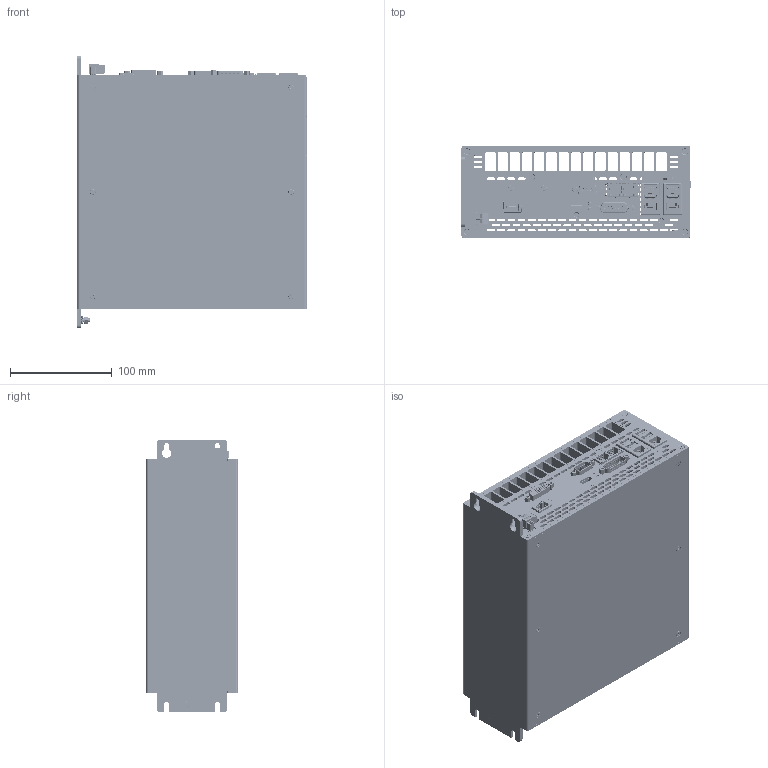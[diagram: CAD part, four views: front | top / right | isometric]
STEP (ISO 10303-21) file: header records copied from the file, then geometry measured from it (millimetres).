
FILE_DESCRIPTION (( 'STEP AP214' ), '1' );
FILE_NAME ('C6P34-BM_D0_RVL_RS232.STEP', '2019-09-20T13:58:06', ( '' ), ( '' ), 'SwSTEP 2.0', 'SolidWorks 2018', '' );
FILE_SCHEMA (( 'AUTOMOTIVE_DESIGN' ));
Length unit declared in the file: millimetre
Products named in the file (49): 62920011; 23330039; 7397_212_Depopolata; 62920001; foot2579_700000; 7397_279; 21410060; 52536136; 66811014; 62990009; 7397_212; 21505014; 66820000; 21509026; 21509048; 21502089; 52500002; 20100011; C6P34-BM_D0_RVL_RS232; 56636680; 7359_051; 21405029; 57136005; 21410056; 54336008_Default<A macchina>; 62920005; 53936027; 21512011; 52912002; 64312003; 66320015; 14300036; 54336011; 7397_276; 21614000; 21402062; 21409042; 21410052; 14300030; piazzuola_de800_di370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
Assembly tree (110 placements, depth 3):
  C6P34-BM_D0_RVL_RS232
    52500002
      52536136
      52912002
      66320015  x4
    7359_051_Depopolata
      7359_051
      23330039  x4
      21410052
      21512011
      21410046  x2
      21410056
      21409042
      21405029  x2
      20100011
      21509026
      piazzuola_de800_di370  x8
      14300036  x7
    54236002_Default<A macchina>
    7397_279_Depopolata
      7397_279
      21502089
      piazzuola_de800_di370  x5
    21402062
    54336011
      54336008_Default<A macchina>
      57136005
      62990009  x2
      64312003  x2
      62120039
    56636726
    56636680
    53936027  x2
    21614000  x6
    66011039  x12
    66820000  x2
    66811014  x12
    62920001
    62920005
    62920011
    61820002
    7397_212_Depopolata
      7397_212
      14300030
      21505014
      foot2579_700000
      21509048
      piazzuola_de800_di370
    7397_276_Depopolata
      7397_276
      21410060
      21505014
      piazzuola_de800_di370  x2
      14300036
Bounding box: 225.01 x 90 x 268 mm (x, y, z)
Volume: 511752.3 mm3; surface area: 946810.2 mm2
Topology: 189 solids, 415 shells, 29048 faces, 80689 edges, 52490 vertices
Faces by surface type: plane 18938, cylinder 8627, bspline 725, cone 595, torus 148, sphere 15
Entity records: 832094 total; most frequent: CARTESIAN_POINT 171188, ORIENTED_EDGE 126187, DIRECTION 117395, EDGE_CURVE 63950, LINE 45017, VECTOR 45017, VERTEX_POINT 41678, AXIS2_PLACEMENT_3D 36189
